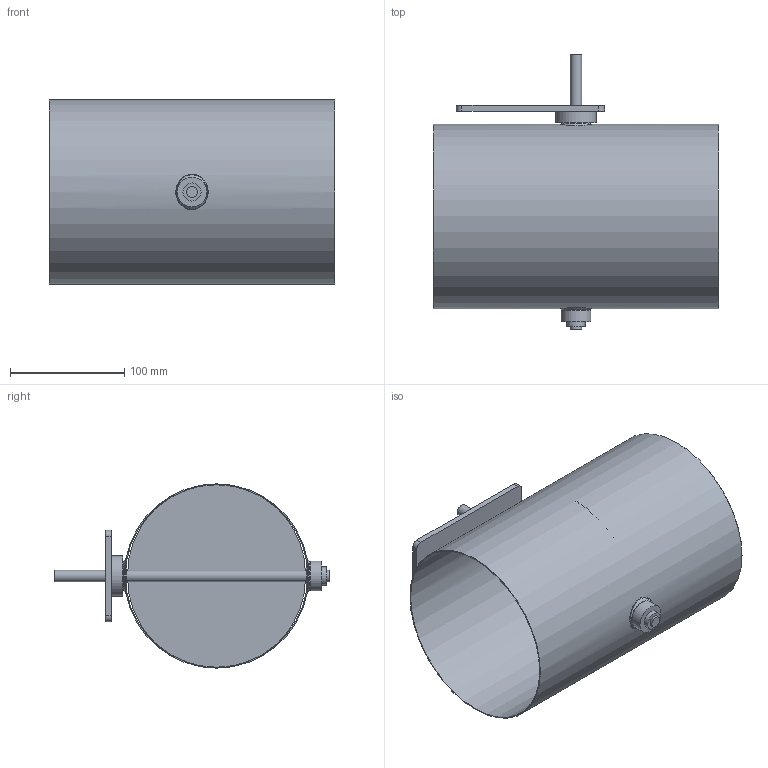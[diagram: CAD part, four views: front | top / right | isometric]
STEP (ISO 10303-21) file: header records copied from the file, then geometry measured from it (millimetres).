
FILE_DESCRIPTION(/* description */ (''),/* implementation_level */ '2;1');
FILE_NAME(/* name */ 'AA125-80B__160_L250_Belimo_Typ_LM.stp',/* time_stamp */ '2017-12-06T13:05:09+01:00',/* author */ (''),/* organization */ (''),/* preprocessor_version */ 'ST-DEVELOPER v11',/* originating_system */ 'SIEMENS UGS NX 6.0',/* authorisation */ '');
FILE_SCHEMA (('CONFIG_CONTROL_DESIGN'));
Length unit declared in the file: millimetre
Products named in the file (1): gars18E2j1ze
Bounding box: 250 x 241 x 161.6 mm (x, y, z)
Volume: 208275.6 mm3; surface area: 333175.8 mm2
Topology: 8 solids, 8 shells, 66 faces, 142 edges, 98 vertices
Faces by surface type: plane 28, cylinder 26, cone 4, bspline 4, torus 4
Full cylindrical faces by diameter (mm): 4.1 x4, 10 x3, 15 x3, 15.85 x2, 16 x2, 24 x2, 26 x1, 36 x1, 160 x1, 161.6 x1
Entity records: 2194 total; most frequent: CARTESIAN_POINT 841, DIRECTION 270, ORIENTED_EDGE 184, EDGE_LOOP 128, AXIS2_PLACEMENT_3D 123, FACE_BOUND 114, EDGE_CURVE 92, VERTEX_POINT 80
